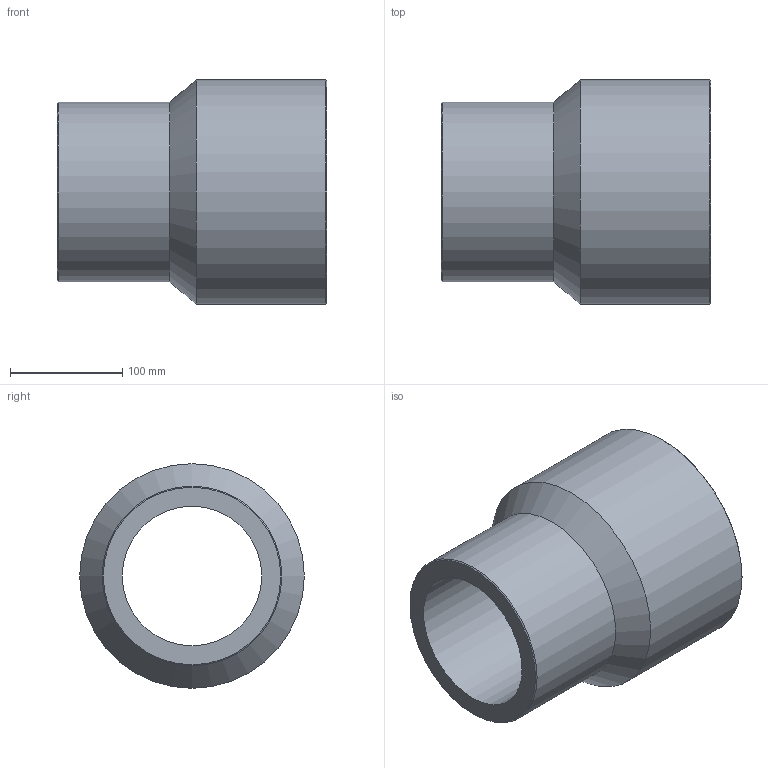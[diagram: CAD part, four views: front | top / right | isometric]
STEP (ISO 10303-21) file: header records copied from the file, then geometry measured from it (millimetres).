
FILE_DESCRIPTION(/* description */ ('Unknown'),/* implementation_level */ '2;1');
FILE_NAME(/* name */ 'RP200160G',/* time_stamp */ '2021-09-16T17:11:37+02:00',/* author */ ('Unknown'),/* organization */ ('Unknown'),/* preprocessor_version */ 'ST-DEVELOPER v16.7',/* originating_system */ 'Solid Edge',/* authorisation */ 'Unknown');
FILE_SCHEMA (('AUTOMOTIVE_DESIGN {1 0 10303 214 3 1 1}'));
Length unit declared in the file: millimetre
Products named in the file (1): RP200160G
Bounding box: 240 x 200 x 200 mm (x, y, z)
Volume: 2574041.2 mm3; surface area: 267456.2 mm2
Topology: 1 solids, 1 shells, 10 faces, 19 edges, 11 vertices
Faces by surface type: cylinder 4, cone 4, plane 2
Full cylindrical faces by diameter (mm): 124.2 x1, 155.2 x1, 160 x1, 200 x1
Entity records: 238 total; most frequent: DIRECTION 42, CARTESIAN_POINT 31, AXIS2_PLACEMENT_3D 21, ORIENTED_EDGE 20, EDGE_LOOP 20, FACE_BOUND 20, EDGE_CURVE 10, VERTEX_POINT 10
